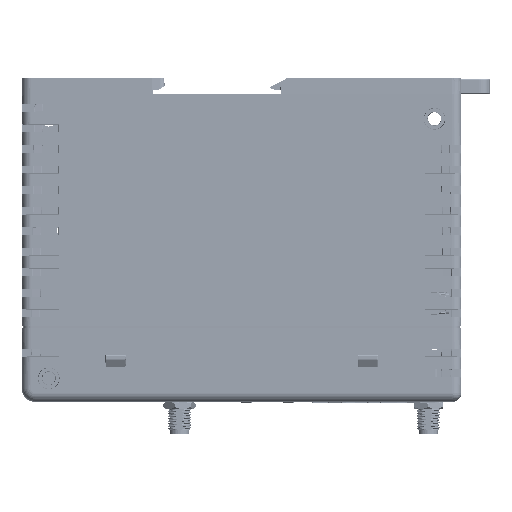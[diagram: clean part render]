
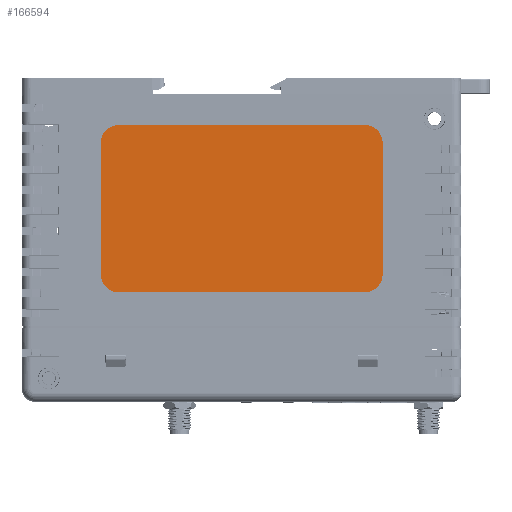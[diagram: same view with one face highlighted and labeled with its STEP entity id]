
A CAD part, left-side view. The second image highlights one B-rep face of the part: STEP entity #166594.
In plain terms, the highlighted planar face has unit normal (-1, 0, 0) as drawn and (1, 0, 0) by its records, which use the part's own axes.
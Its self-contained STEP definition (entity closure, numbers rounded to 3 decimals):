
#16589=LINE('',#270059,#31371);
#16590=LINE('',#270063,#31372);
#16591=LINE('',#270067,#31373);
#16592=LINE('',#270071,#31374);
#31371=VECTOR('',#206035,1000.);
#31372=VECTOR('',#206038,1000.);
#31373=VECTOR('',#206041,1000.);
#31374=VECTOR('',#206044,1000.);
#37544=PLANE('',#176020);
#76707=ORIENTED_EDGE('',*,*,#104225,.T.);
#76708=ORIENTED_EDGE('',*,*,#104226,.T.);
#76709=ORIENTED_EDGE('',*,*,#104227,.T.);
#76710=ORIENTED_EDGE('',*,*,#104228,.T.);
#76711=ORIENTED_EDGE('',*,*,#104229,.T.);
#76712=ORIENTED_EDGE('',*,*,#104230,.T.);
#76713=ORIENTED_EDGE('',*,*,#104231,.T.);
#76714=ORIENTED_EDGE('',*,*,#104232,.T.);
#104225=EDGE_CURVE('',#120435,#120436,#124351,.T.);
#104226=EDGE_CURVE('',#120436,#120437,#16589,.T.);
#104227=EDGE_CURVE('',#120437,#120438,#124352,.T.);
#104228=EDGE_CURVE('',#120438,#120439,#16590,.T.);
#104229=EDGE_CURVE('',#120439,#120440,#124353,.T.);
#104230=EDGE_CURVE('',#120440,#120441,#16591,.T.);
#104231=EDGE_CURVE('',#120441,#120442,#124354,.T.);
#104232=EDGE_CURVE('',#120442,#120435,#16592,.T.);
#120435=VERTEX_POINT('',#270057);
#120436=VERTEX_POINT('',#270058);
#120437=VERTEX_POINT('',#270060);
#120438=VERTEX_POINT('',#270062);
#120439=VERTEX_POINT('',#270064);
#120440=VERTEX_POINT('',#270066);
#120441=VERTEX_POINT('',#270068);
#120442=VERTEX_POINT('',#270070);
#124351=CIRCLE('',#176021,5.);
#124352=CIRCLE('',#176022,5.);
#124353=CIRCLE('',#176023,5.);
#124354=CIRCLE('',#176024,5.);
#131473=EDGE_LOOP('',(#76707,#76708,#76709,#76710,#76711,#76712,#76713,
#76714));
#139890=FACE_BOUND('',#131473,.T.);
#166594=ADVANCED_FACE('',(#139890),#37544,.F.);
#176020=AXIS2_PLACEMENT_3D('',#270055,#206031,#206032);
#176021=AXIS2_PLACEMENT_3D('',#270056,#206033,#206034);
#176022=AXIS2_PLACEMENT_3D('',#270061,#206036,#206037);
#176023=AXIS2_PLACEMENT_3D('',#270065,#206039,#206040);
#176024=AXIS2_PLACEMENT_3D('',#270069,#206042,#206043);
#206031=DIRECTION('',(-1.,0.,0.));
#206032=DIRECTION('',(0.,-1.,0.));
#206033=DIRECTION('',(1.,0.,0.));
#206034=DIRECTION('',(0.,-1.,0.));
#206035=DIRECTION('',(0.,-1.,0.));
#206036=DIRECTION('',(1.,0.,0.));
#206037=DIRECTION('',(0.,-1.,0.));
#206038=DIRECTION('',(0.,0.,-1.));
#206039=DIRECTION('',(1.,0.,0.));
#206040=DIRECTION('',(0.,1.,0.));
#206041=DIRECTION('',(0.,1.,0.));
#206042=DIRECTION('',(1.,0.,0.));
#206043=DIRECTION('',(0.,-1.,0.));
#206044=DIRECTION('',(0.,0.,1.));
#270055=CARTESIAN_POINT('',(19.7,34.1,-16.929));
#270056=CARTESIAN_POINT('',(19.7,34.1,-16.929));
#270057=CARTESIAN_POINT('',(19.7,39.1,-16.929));
#270058=CARTESIAN_POINT('',(19.7,34.1,-11.929));
#270059=CARTESIAN_POINT('',(19.7,-34.1,-11.929));
#270060=CARTESIAN_POINT('',(19.7,-34.1,-11.929));
#270061=CARTESIAN_POINT('',(19.7,-34.1,-16.929));
#270062=CARTESIAN_POINT('',(19.7,-39.1,-16.929));
#270063=CARTESIAN_POINT('',(19.7,-39.1,-16.929));
#270064=CARTESIAN_POINT('',(19.7,-39.1,-53.379));
#270065=CARTESIAN_POINT('',(19.7,-34.1,-53.379));
#270066=CARTESIAN_POINT('',(19.7,-34.1,-58.379));
#270067=CARTESIAN_POINT('',(19.7,-34.1,-58.379));
#270068=CARTESIAN_POINT('',(19.7,34.1,-58.379));
#270069=CARTESIAN_POINT('',(19.7,34.1,-53.379));
#270070=CARTESIAN_POINT('',(19.7,39.1,-53.379));
#270071=CARTESIAN_POINT('',(19.7,39.1,-16.929));
